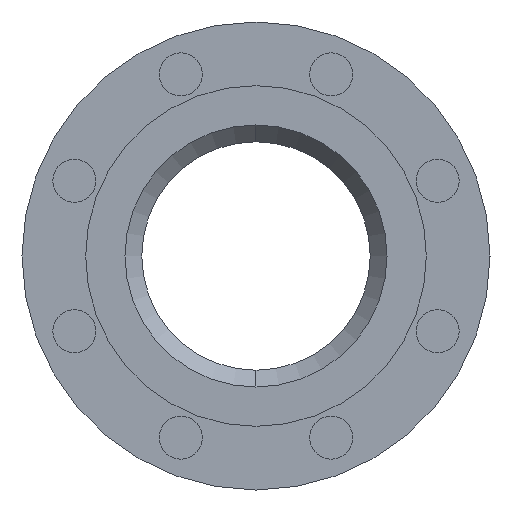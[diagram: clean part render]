
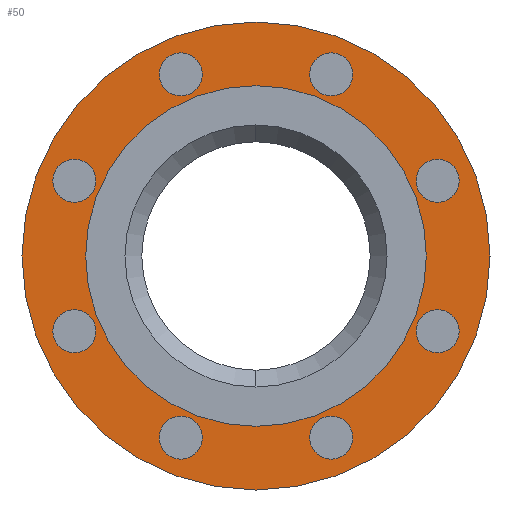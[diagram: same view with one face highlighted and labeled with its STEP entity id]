
A CAD part, left-side view. The second image highlights one B-rep face of the part: STEP entity #50.
In plain terms, the highlighted planar face has unit normal (-1, 0, 0).
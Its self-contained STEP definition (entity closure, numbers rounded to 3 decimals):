
#50=ADVANCED_FACE('',(#286,#287,#288,#289,#290,#291,#292,#293,#294,#295),#285,.F.);
#285=PLANE('',#1506);
#286=FACE_OUTER_BOUND('',#1507,.T.);
#287=FACE_BOUND('',#1508,.T.);
#288=FACE_BOUND('',#1509,.T.);
#289=FACE_BOUND('',#1510,.T.);
#290=FACE_BOUND('',#1511,.T.);
#291=FACE_BOUND('',#1512,.T.);
#292=FACE_BOUND('',#1513,.T.);
#293=FACE_BOUND('',#1514,.T.);
#294=FACE_BOUND('',#1515,.T.);
#295=FACE_BOUND('',#1516,.T.);
#1503=CARTESIAN_POINT('',(2.,-226.506,135.));
#1504=DIRECTION('',(1.,0.,0.));
#1505=DIRECTION('',(0.,0.,-1.));
#1506=AXIS2_PLACEMENT_3D('',#1503,#1504,#1505);
#1507=EDGE_LOOP('',(#2523,#2524));
#1508=EDGE_LOOP('',(#2525,#2526));
#1509=EDGE_LOOP('',(#2527,#2528));
#1510=EDGE_LOOP('',(#2529,#2530));
#1511=EDGE_LOOP('',(#2531,#2532));
#1512=EDGE_LOOP('',(#2533,#2534));
#1513=EDGE_LOOP('',(#2535,#2536));
#1514=EDGE_LOOP('',(#2537,#2538));
#1515=EDGE_LOOP('',(#2539,#2540));
#1516=EDGE_LOOP('',(#2541,#2542));
#2523=ORIENTED_EDGE('',*,*,#3103,.T.);
#2524=ORIENTED_EDGE('',*,*,#3104,.T.);
#2525=ORIENTED_EDGE('',*,*,#3105,.T.);
#2526=ORIENTED_EDGE('',*,*,#3106,.T.);
#2527=ORIENTED_EDGE('',*,*,#3107,.T.);
#2528=ORIENTED_EDGE('',*,*,#3108,.T.);
#2529=ORIENTED_EDGE('',*,*,#3109,.T.);
#2530=ORIENTED_EDGE('',*,*,#3110,.T.);
#2531=ORIENTED_EDGE('',*,*,#3111,.T.);
#2532=ORIENTED_EDGE('',*,*,#3112,.T.);
#2533=ORIENTED_EDGE('',*,*,#3113,.T.);
#2534=ORIENTED_EDGE('',*,*,#3114,.T.);
#2535=ORIENTED_EDGE('',*,*,#3115,.T.);
#2536=ORIENTED_EDGE('',*,*,#3116,.T.);
#2537=ORIENTED_EDGE('',*,*,#3117,.T.);
#2538=ORIENTED_EDGE('',*,*,#3118,.T.);
#2539=ORIENTED_EDGE('',*,*,#3119,.F.);
#2540=ORIENTED_EDGE('',*,*,#3120,.F.);
#2541=ORIENTED_EDGE('',*,*,#3121,.T.);
#2542=ORIENTED_EDGE('',*,*,#3122,.T.);
#3103=EDGE_CURVE('',#3843,#3844,#3845,.T.);
#3104=EDGE_CURVE('',#3844,#3843,#3851,.T.);
#3105=EDGE_CURVE('',#3857,#3858,#3859,.T.);
#3106=EDGE_CURVE('',#3858,#3857,#3865,.T.);
#3107=EDGE_CURVE('',#3871,#3872,#3873,.T.);
#3108=EDGE_CURVE('',#3872,#3871,#3879,.T.);
#3109=EDGE_CURVE('',#3885,#3886,#3887,.T.);
#3110=EDGE_CURVE('',#3886,#3885,#3893,.T.);
#3111=EDGE_CURVE('',#3899,#3900,#3901,.T.);
#3112=EDGE_CURVE('',#3900,#3899,#3907,.T.);
#3113=EDGE_CURVE('',#3913,#3914,#3915,.T.);
#3114=EDGE_CURVE('',#3914,#3913,#3921,.T.);
#3115=EDGE_CURVE('',#3927,#3928,#3929,.T.);
#3116=EDGE_CURVE('',#3928,#3927,#3935,.T.);
#3117=EDGE_CURVE('',#3941,#3942,#3943,.T.);
#3118=EDGE_CURVE('',#3942,#3941,#3949,.T.);
#3119=EDGE_CURVE('',#3955,#3956,#3957,.T.);
#3120=EDGE_CURVE('',#3956,#3955,#3963,.T.);
#3121=EDGE_CURVE('',#3969,#3970,#3971,.T.);
#3122=EDGE_CURVE('',#3970,#3969,#3977,.T.);
#3843=VERTEX_POINT('',#5602);
#3844=VERTEX_POINT('',#5603);
#3845=CIRCLE('',#5607,125.);
#3851=CIRCLE('',#5611,125.);
#3857=VERTEX_POINT('',#5612);
#3858=VERTEX_POINT('',#5613);
#3859=CIRCLE('',#5617,11.5);
#3865=CIRCLE('',#5621,11.5);
#3871=VERTEX_POINT('',#5622);
#3872=VERTEX_POINT('',#5623);
#3873=CIRCLE('',#5627,11.5);
#3879=CIRCLE('',#5631,11.5);
#3885=VERTEX_POINT('',#5632);
#3886=VERTEX_POINT('',#5633);
#3887=CIRCLE('',#5637,11.5);
#3893=CIRCLE('',#5641,11.5);
#3899=VERTEX_POINT('',#5642);
#3900=VERTEX_POINT('',#5643);
#3901=CIRCLE('',#5647,11.5);
#3907=CIRCLE('',#5651,11.5);
#3913=VERTEX_POINT('',#5652);
#3914=VERTEX_POINT('',#5653);
#3915=CIRCLE('',#5657,11.5);
#3921=CIRCLE('',#5661,11.5);
#3927=VERTEX_POINT('',#5662);
#3928=VERTEX_POINT('',#5663);
#3929=CIRCLE('',#5667,11.5);
#3935=CIRCLE('',#5671,11.5);
#3941=VERTEX_POINT('',#5672);
#3942=VERTEX_POINT('',#5673);
#3943=CIRCLE('',#5677,11.5);
#3949=CIRCLE('',#5681,11.5);
#3955=VERTEX_POINT('',#5682);
#3956=VERTEX_POINT('',#5683);
#3957=CIRCLE('',#5687,91.);
#3963=CIRCLE('',#5691,91.);
#3969=VERTEX_POINT('',#5692);
#3970=VERTEX_POINT('',#5693);
#3971=CIRCLE('',#5697,11.5);
#3977=CIRCLE('',#5701,11.5);
#5602=CARTESIAN_POINT('',(2.,0.,125.));
#5603=CARTESIAN_POINT('',(2.,0.,-125.));
#5604=CARTESIAN_POINT('',(2.,0.,0.));
#5605=DIRECTION('',(-1.,0.,0.));
#5606=DIRECTION('',(0.,0.,1.));
#5607=AXIS2_PLACEMENT_3D('',#5604,#5605,#5606);
#5608=CARTESIAN_POINT('',(2.,0.,0.));
#5609=DIRECTION('',(-1.,0.,0.));
#5610=DIRECTION('',(0.,0.,1.));
#5611=AXIS2_PLACEMENT_3D('',#5608,#5609,#5610);
#5612=CARTESIAN_POINT('',(2.,-97.007,51.682));
#5613=CARTESIAN_POINT('',(2.,-97.007,28.682));
#5614=CARTESIAN_POINT('',(2.,-97.007,40.182));
#5615=DIRECTION('',(1.,0.,0.));
#5616=DIRECTION('',(0.,0.,1.));
#5617=AXIS2_PLACEMENT_3D('',#5614,#5615,#5616);
#5618=CARTESIAN_POINT('',(2.,-97.007,40.182));
#5619=DIRECTION('',(1.,0.,0.));
#5620=DIRECTION('',(0.,0.,1.));
#5621=AXIS2_PLACEMENT_3D('',#5618,#5619,#5620);
#5622=CARTESIAN_POINT('',(2.,-97.007,-28.682));
#5623=CARTESIAN_POINT('',(2.,-97.007,-51.682));
#5624=CARTESIAN_POINT('',(2.,-97.007,-40.182));
#5625=DIRECTION('',(1.,0.,0.));
#5626=DIRECTION('',(0.,0.,1.));
#5627=AXIS2_PLACEMENT_3D('',#5624,#5625,#5626);
#5628=CARTESIAN_POINT('',(2.,-97.007,-40.182));
#5629=DIRECTION('',(1.,0.,0.));
#5630=DIRECTION('',(0.,0.,1.));
#5631=AXIS2_PLACEMENT_3D('',#5628,#5629,#5630);
#5632=CARTESIAN_POINT('',(2.,-40.182,-85.507));
#5633=CARTESIAN_POINT('',(2.,-40.182,-108.507));
#5634=CARTESIAN_POINT('',(2.,-40.182,-97.007));
#5635=DIRECTION('',(1.,0.,0.));
#5636=DIRECTION('',(0.,0.,1.));
#5637=AXIS2_PLACEMENT_3D('',#5634,#5635,#5636);
#5638=CARTESIAN_POINT('',(2.,-40.182,-97.007));
#5639=DIRECTION('',(1.,0.,0.));
#5640=DIRECTION('',(0.,0.,1.));
#5641=AXIS2_PLACEMENT_3D('',#5638,#5639,#5640);
#5642=CARTESIAN_POINT('',(2.,40.182,-85.507));
#5643=CARTESIAN_POINT('',(2.,40.182,-108.507));
#5644=CARTESIAN_POINT('',(2.,40.182,-97.007));
#5645=DIRECTION('',(1.,0.,0.));
#5646=DIRECTION('',(0.,0.,1.));
#5647=AXIS2_PLACEMENT_3D('',#5644,#5645,#5646);
#5648=CARTESIAN_POINT('',(2.,40.182,-97.007));
#5649=DIRECTION('',(1.,0.,0.));
#5650=DIRECTION('',(0.,0.,1.));
#5651=AXIS2_PLACEMENT_3D('',#5648,#5649,#5650);
#5652=CARTESIAN_POINT('',(2.,97.007,-28.682));
#5653=CARTESIAN_POINT('',(2.,97.007,-51.682));
#5654=CARTESIAN_POINT('',(2.,97.007,-40.182));
#5655=DIRECTION('',(1.,0.,0.));
#5656=DIRECTION('',(0.,0.,1.));
#5657=AXIS2_PLACEMENT_3D('',#5654,#5655,#5656);
#5658=CARTESIAN_POINT('',(2.,97.007,-40.182));
#5659=DIRECTION('',(1.,0.,0.));
#5660=DIRECTION('',(0.,0.,1.));
#5661=AXIS2_PLACEMENT_3D('',#5658,#5659,#5660);
#5662=CARTESIAN_POINT('',(2.,97.007,51.682));
#5663=CARTESIAN_POINT('',(2.,97.007,28.682));
#5664=CARTESIAN_POINT('',(2.,97.007,40.182));
#5665=DIRECTION('',(1.,0.,0.));
#5666=DIRECTION('',(0.,0.,1.));
#5667=AXIS2_PLACEMENT_3D('',#5664,#5665,#5666);
#5668=CARTESIAN_POINT('',(2.,97.007,40.182));
#5669=DIRECTION('',(1.,0.,0.));
#5670=DIRECTION('',(0.,0.,1.));
#5671=AXIS2_PLACEMENT_3D('',#5668,#5669,#5670);
#5672=CARTESIAN_POINT('',(2.,40.182,108.507));
#5673=CARTESIAN_POINT('',(2.,40.182,85.507));
#5674=CARTESIAN_POINT('',(2.,40.182,97.007));
#5675=DIRECTION('',(1.,0.,0.));
#5676=DIRECTION('',(0.,0.,1.));
#5677=AXIS2_PLACEMENT_3D('',#5674,#5675,#5676);
#5678=CARTESIAN_POINT('',(2.,40.182,97.007));
#5679=DIRECTION('',(1.,0.,0.));
#5680=DIRECTION('',(0.,0.,1.));
#5681=AXIS2_PLACEMENT_3D('',#5678,#5679,#5680);
#5682=CARTESIAN_POINT('',(2.,0.,-91.));
#5683=CARTESIAN_POINT('',(2.,0.,91.));
#5684=CARTESIAN_POINT('',(2.,0.,0.));
#5685=DIRECTION('',(-1.,0.,0.));
#5686=DIRECTION('',(0.,0.,1.));
#5687=AXIS2_PLACEMENT_3D('',#5684,#5685,#5686);
#5688=CARTESIAN_POINT('',(2.,0.,0.));
#5689=DIRECTION('',(-1.,0.,0.));
#5690=DIRECTION('',(0.,0.,1.));
#5691=AXIS2_PLACEMENT_3D('',#5688,#5689,#5690);
#5692=CARTESIAN_POINT('',(2.,-40.182,108.507));
#5693=CARTESIAN_POINT('',(2.,-40.182,85.507));
#5694=CARTESIAN_POINT('',(2.,-40.182,97.007));
#5695=DIRECTION('',(1.,0.,0.));
#5696=DIRECTION('',(0.,0.,1.));
#5697=AXIS2_PLACEMENT_3D('',#5694,#5695,#5696);
#5698=CARTESIAN_POINT('',(2.,-40.182,97.007));
#5699=DIRECTION('',(1.,0.,0.));
#5700=DIRECTION('',(0.,0.,1.));
#5701=AXIS2_PLACEMENT_3D('',#5698,#5699,#5700);
